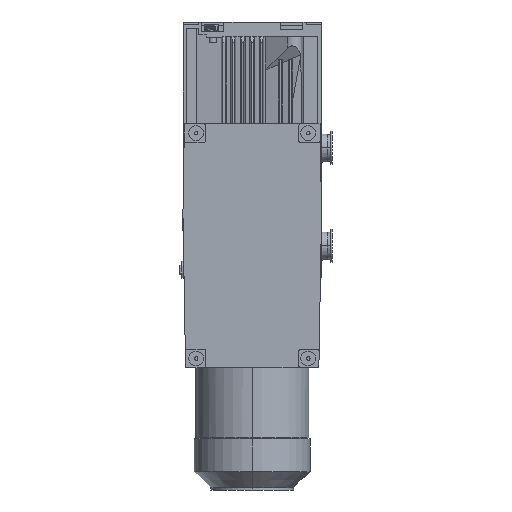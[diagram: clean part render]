
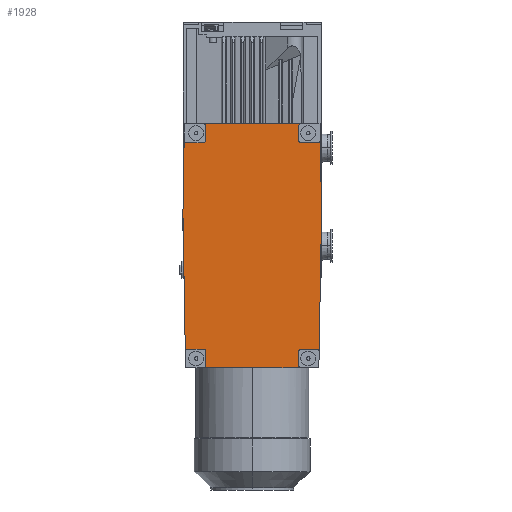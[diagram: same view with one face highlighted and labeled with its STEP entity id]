
A CAD part, front view. The second image highlights one B-rep face of the part: STEP entity #1928.
In plain terms, the highlighted planar face has unit normal (0, -1, 0) as drawn and (0, 0, -1) by its records, which use the part's own axes.
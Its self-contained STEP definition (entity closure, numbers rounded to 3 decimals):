
#89=DIRECTION('',(1.,0.,0.));
#90=VECTOR('',#89,24.);
#91=CARTESIAN_POINT('',(-203.,-78.996,0.));
#92=LINE('',#91,#90);
#93=CARTESIAN_POINT('',(-179.,-82.996,0.));
#94=DIRECTION('',(0.,0.,-1.));
#95=DIRECTION('',(0.,1.,0.));
#96=AXIS2_PLACEMENT_3D('',#93,#94,#95);
#98=DIRECTION('',(0.,-1.,0.));
#99=VECTOR('',#98,28.464);
#100=CARTESIAN_POINT('',(-175.,-82.996,0.));
#101=LINE('',#100,#99);
#102=CARTESIAN_POINT('',(-179.,-111.46,0.));
#103=DIRECTION('',(0.,0.,-1.));
#104=DIRECTION('',(1.,0.,0.));
#105=AXIS2_PLACEMENT_3D('',#102,#103,#104);
#107=DIRECTION('',(1.,-0.016,0.));
#108=VECTOR('',#107,124.083);
#109=CARTESIAN_POINT('',(-179.066,-115.459,0.));
#110=LINE('',#109,#108);
#111=DIRECTION('',(1.,0.017,0.));
#112=VECTOR('',#111,234.103);
#113=CARTESIAN_POINT('',(-55.,-117.5,0.));
#114=LINE('',#113,#112);
#115=CARTESIAN_POINT('',(179.,-109.48,0.));
#116=DIRECTION('',(0.,0.,-1.));
#117=DIRECTION('',(0.017,-1.,0.));
#118=AXIS2_PLACEMENT_3D('',#115,#116,#117);
#120=DIRECTION('',(0.,1.,0.));
#121=VECTOR('',#120,26.48);
#122=CARTESIAN_POINT('',(175.,-109.48,0.));
#123=LINE('',#122,#121);
#124=CARTESIAN_POINT('',(179.,-83.,0.));
#125=DIRECTION('',(0.,0.,-1.));
#126=DIRECTION('',(-1.,0.,0.));
#127=AXIS2_PLACEMENT_3D('',#124,#125,#126);
#129=DIRECTION('',(-1.,0.,0.));
#130=VECTOR('',#129,24.);
#131=CARTESIAN_POINT('',(203.,-79.,0.));
#132=LINE('',#131,#130);
#133=CARTESIAN_POINT('',(203.,-83.,0.));
#134=DIRECTION('',(0.,0.,-1.));
#135=DIRECTION('',(0.,1.,0.));
#136=AXIS2_PLACEMENT_3D('',#133,#134,#135);
#138=DIRECTION('',(0.,1.,0.));
#139=VECTOR('',#138,165.99);
#140=CARTESIAN_POINT('',(207.,-83.,0.));
#141=LINE('',#140,#139);
#142=CARTESIAN_POINT('',(207.,82.971,0.));
#143=CARTESIAN_POINT('',(207.,82.547,0.));
#144=CARTESIAN_POINT('',(206.863,81.742,0.));
#145=CARTESIAN_POINT('',(206.284,80.601,0.));
#146=CARTESIAN_POINT('',(205.387,79.708,0.));
#147=CARTESIAN_POINT('',(204.248,79.132,0.));
#148=CARTESIAN_POINT('',(203.431,79.,0.));
#149=CARTESIAN_POINT('',(203.,79.,0.));
#151=DIRECTION('',(-1.,0.,0.));
#152=VECTOR('',#151,24.);
#153=CARTESIAN_POINT('',(203.,79.,0.));
#154=LINE('',#153,#152);
#155=CARTESIAN_POINT('',(179.,83.,0.));
#156=DIRECTION('',(0.,0.,-1.));
#157=DIRECTION('',(0.,-1.,0.));
#158=AXIS2_PLACEMENT_3D('',#155,#156,#157);
#160=DIRECTION('',(0.,1.,0.));
#161=VECTOR('',#160,26.48);
#162=CARTESIAN_POINT('',(175.,83.,0.));
#163=LINE('',#162,#161);
#164=CARTESIAN_POINT('',(179.,109.48,0.));
#165=DIRECTION('',(0.,0.,-1.));
#166=DIRECTION('',(-1.,0.,0.));
#167=AXIS2_PLACEMENT_3D('',#164,#165,#166);
#169=DIRECTION('',(-1.,0.017,0.));
#170=VECTOR('',#169,234.103);
#171=CARTESIAN_POINT('',(179.069,113.48,0.));
#172=LINE('',#171,#170);
#173=DIRECTION('',(-1.,-0.016,0.));
#174=VECTOR('',#173,124.083);
#175=CARTESIAN_POINT('',(-55.,117.5,0.));
#176=LINE('',#175,#174);
#177=CARTESIAN_POINT('',(-179.,111.46,0.));
#178=DIRECTION('',(0.,0.,-1.));
#179=DIRECTION('',(-0.016,1.,0.));
#180=AXIS2_PLACEMENT_3D('',#177,#178,#179);
#182=DIRECTION('',(0.,-1.,0.));
#183=VECTOR('',#182,28.456);
#184=CARTESIAN_POINT('',(-175.,111.46,0.));
#185=LINE('',#184,#183);
#186=CARTESIAN_POINT('',(-179.,83.004,0.));
#187=DIRECTION('',(0.,0.,-1.));
#188=DIRECTION('',(1.,0.,0.));
#189=AXIS2_PLACEMENT_3D('',#186,#187,#188);
#191=DIRECTION('',(1.,0.,0.));
#192=VECTOR('',#191,24.);
#193=CARTESIAN_POINT('',(-203.,79.004,0.));
#194=LINE('',#193,#192);
#195=CARTESIAN_POINT('',(-203.,79.004,0.));
#196=CARTESIAN_POINT('',(-203.431,79.004,0.));
#197=CARTESIAN_POINT('',(-204.247,79.135,0.));
#198=CARTESIAN_POINT('',(-205.386,79.711,0.));
#199=CARTESIAN_POINT('',(-206.283,80.603,0.));
#200=CARTESIAN_POINT('',(-206.862,81.745,0.));
#201=CARTESIAN_POINT('',(-207.,82.547,0.));
#202=CARTESIAN_POINT('',(-207.,82.969,0.));
#204=DIRECTION('',(0.,-1.,0.));
#205=VECTOR('',#204,165.974);
#206=CARTESIAN_POINT('',(-207.,82.992,0.));
#207=LINE('',#206,#205);
#208=CARTESIAN_POINT('',(-207.,-82.953,0.));
#209=CARTESIAN_POINT('',(-207.,-82.534,0.));
#210=CARTESIAN_POINT('',(-206.861,-81.735,0.));
#211=CARTESIAN_POINT('',(-206.282,-80.593,0.));
#212=CARTESIAN_POINT('',(-205.385,-79.703,0.));
#213=CARTESIAN_POINT('',(-204.247,-79.128,0.));
#214=CARTESIAN_POINT('',(-203.431,-78.996,0.));
#215=CARTESIAN_POINT('',(-203.,-78.996,0.));
#1469=CARTESIAN_POINT('',(-55.,117.5,0.));
#1470=VERTEX_POINT('',#1469);
#1471=CARTESIAN_POINT('',(-55.,-117.5,0.));
#1472=VERTEX_POINT('',#1471);
#1529=CARTESIAN_POINT('',(-203.,-78.996,0.));
#1530=CARTESIAN_POINT('',(-179.,-78.996,0.));
#1531=VERTEX_POINT('',#1529);
#1532=VERTEX_POINT('',#1530);
#1533=CARTESIAN_POINT('',(-175.,-82.996,0.));
#1534=CARTESIAN_POINT('',(-175.,-111.46,0.));
#1535=VERTEX_POINT('',#1533);
#1536=VERTEX_POINT('',#1534);
#1537=CARTESIAN_POINT('',(-175.,111.46,0.));
#1538=CARTESIAN_POINT('',(-175.,83.004,0.));
#1539=VERTEX_POINT('',#1537);
#1540=VERTEX_POINT('',#1538);
#1541=CARTESIAN_POINT('',(-203.,79.004,0.));
#1542=CARTESIAN_POINT('',(-179.,79.004,0.));
#1543=VERTEX_POINT('',#1541);
#1544=VERTEX_POINT('',#1542);
#1545=CARTESIAN_POINT('',(175.,-109.48,0.));
#1546=CARTESIAN_POINT('',(175.,-83.,0.));
#1547=VERTEX_POINT('',#1545);
#1548=VERTEX_POINT('',#1546);
#1549=CARTESIAN_POINT('',(203.,-79.,0.));
#1550=CARTESIAN_POINT('',(179.,-79.,0.));
#1551=VERTEX_POINT('',#1549);
#1552=VERTEX_POINT('',#1550);
#1553=CARTESIAN_POINT('',(203.,79.,0.));
#1554=CARTESIAN_POINT('',(179.,79.,0.));
#1555=VERTEX_POINT('',#1553);
#1556=VERTEX_POINT('',#1554);
#1557=CARTESIAN_POINT('',(175.,83.,0.));
#1558=CARTESIAN_POINT('',(175.,109.48,0.));
#1559=VERTEX_POINT('',#1557);
#1560=VERTEX_POINT('',#1558);
#1561=CARTESIAN_POINT('',(207.,-83.,0.));
#1562=CARTESIAN_POINT('',(207.,82.99,0.));
#1563=VERTEX_POINT('',#1561);
#1564=VERTEX_POINT('',#1562);
#1565=CARTESIAN_POINT('',(179.069,113.48,0.));
#1566=VERTEX_POINT('',#1565);
#1567=CARTESIAN_POINT('',(-179.066,115.459,0.));
#1568=VERTEX_POINT('',#1567);
#1569=CARTESIAN_POINT('',(-207.,82.992,0.));
#1570=CARTESIAN_POINT('',(-207.,-82.982,0.));
#1571=VERTEX_POINT('',#1569);
#1572=VERTEX_POINT('',#1570);
#1573=CARTESIAN_POINT('',(-179.066,-115.459,0.));
#1574=VERTEX_POINT('',#1573);
#1575=CARTESIAN_POINT('',(179.069,-113.48,0.));
#1576=VERTEX_POINT('',#1575);
#1869=CARTESIAN_POINT('',(0.,0.,0.));
#1870=DIRECTION('',(0.,0.,1.));
#1871=DIRECTION('',(1.,0.,0.));
#1872=AXIS2_PLACEMENT_3D('',#1869,#1870,#1871);
#1873=PLANE('',#1872);
#1875=ORIENTED_EDGE('',*,*,#1874,.T.);
#1877=ORIENTED_EDGE('',*,*,#1876,.T.);
#1879=ORIENTED_EDGE('',*,*,#1878,.T.);
#1881=ORIENTED_EDGE('',*,*,#1880,.T.);
#1883=ORIENTED_EDGE('',*,*,#1882,.T.);
#1885=ORIENTED_EDGE('',*,*,#1884,.T.);
#1887=ORIENTED_EDGE('',*,*,#1886,.T.);
#1889=ORIENTED_EDGE('',*,*,#1888,.T.);
#1891=ORIENTED_EDGE('',*,*,#1890,.T.);
#1893=ORIENTED_EDGE('',*,*,#1892,.F.);
#1895=ORIENTED_EDGE('',*,*,#1894,.T.);
#1897=ORIENTED_EDGE('',*,*,#1896,.T.);
#1899=ORIENTED_EDGE('',*,*,#1898,.T.);
#1901=ORIENTED_EDGE('',*,*,#1900,.T.);
#1903=ORIENTED_EDGE('',*,*,#1902,.T.);
#1905=ORIENTED_EDGE('',*,*,#1904,.T.);
#1907=ORIENTED_EDGE('',*,*,#1906,.T.);
#1909=ORIENTED_EDGE('',*,*,#1908,.T.);
#1911=ORIENTED_EDGE('',*,*,#1910,.T.);
#1913=ORIENTED_EDGE('',*,*,#1912,.T.);
#1915=ORIENTED_EDGE('',*,*,#1914,.T.);
#1917=ORIENTED_EDGE('',*,*,#1916,.T.);
#1919=ORIENTED_EDGE('',*,*,#1918,.F.);
#1921=ORIENTED_EDGE('',*,*,#1920,.T.);
#1923=ORIENTED_EDGE('',*,*,#1922,.T.);
#1925=ORIENTED_EDGE('',*,*,#1924,.T.);
#1926=EDGE_LOOP('',(#1875,#1877,#1879,#1881,#1883,#1885,#1887,#1889,#1891,#1893,
#1895,#1897,#1899,#1901,#1903,#1905,#1907,#1909,#1911,#1913,#1915,#1917,#1919,
#1921,#1923,#1925));
#1927=FACE_OUTER_BOUND('',#1926,.F.);
#97=CIRCLE('',#96,4.);
#106=CIRCLE('',#105,4.);
#119=CIRCLE('',#118,4.);
#128=CIRCLE('',#127,4.);
#137=CIRCLE('',#136,4.);
#150=B_SPLINE_CURVE_WITH_KNOTS('',3,(#142,#143,#144,#145,#146,#147,#148,#149),
.UNSPECIFIED.,.F.,.F.,(4,1,1,1,1,4),(0.,0.2,0.4,0.6,0.8,1.),
.UNSPECIFIED.);
#159=CIRCLE('',#158,4.);
#168=CIRCLE('',#167,4.);
#181=CIRCLE('',#180,4.);
#190=CIRCLE('',#189,4.);
#203=B_SPLINE_CURVE_WITH_KNOTS('',3,(#195,#196,#197,#198,#199,#200,#201,#202),
.UNSPECIFIED.,.F.,.F.,(4,1,1,1,1,4),(0.,0.2,0.4,0.6,0.8,1.),
.UNSPECIFIED.);
#216=B_SPLINE_CURVE_WITH_KNOTS('',3,(#208,#209,#210,#211,#212,#213,#214,#215),
.UNSPECIFIED.,.F.,.F.,(4,1,1,1,1,4),(0.,0.2,0.4,0.6,0.8,1.),
.UNSPECIFIED.);
#1874=EDGE_CURVE('',#1531,#1532,#92,.T.);
#1876=EDGE_CURVE('',#1532,#1535,#97,.T.);
#1878=EDGE_CURVE('',#1535,#1536,#101,.T.);
#1880=EDGE_CURVE('',#1536,#1574,#106,.T.);
#1882=EDGE_CURVE('',#1574,#1472,#110,.T.);
#1884=EDGE_CURVE('',#1472,#1576,#114,.T.);
#1886=EDGE_CURVE('',#1576,#1547,#119,.T.);
#1888=EDGE_CURVE('',#1547,#1548,#123,.T.);
#1890=EDGE_CURVE('',#1548,#1552,#128,.T.);
#1892=EDGE_CURVE('',#1551,#1552,#132,.T.);
#1894=EDGE_CURVE('',#1551,#1563,#137,.T.);
#1896=EDGE_CURVE('',#1563,#1564,#141,.T.);
#1898=EDGE_CURVE('',#1564,#1555,#150,.T.);
#1900=EDGE_CURVE('',#1555,#1556,#154,.T.);
#1902=EDGE_CURVE('',#1556,#1559,#159,.T.);
#1904=EDGE_CURVE('',#1559,#1560,#163,.T.);
#1906=EDGE_CURVE('',#1560,#1566,#168,.T.);
#1908=EDGE_CURVE('',#1566,#1470,#172,.T.);
#1910=EDGE_CURVE('',#1470,#1568,#176,.T.);
#1912=EDGE_CURVE('',#1568,#1539,#181,.T.);
#1914=EDGE_CURVE('',#1539,#1540,#185,.T.);
#1916=EDGE_CURVE('',#1540,#1544,#190,.T.);
#1918=EDGE_CURVE('',#1543,#1544,#194,.T.);
#1920=EDGE_CURVE('',#1543,#1571,#203,.T.);
#1922=EDGE_CURVE('',#1571,#1572,#207,.T.);
#1924=EDGE_CURVE('',#1572,#1531,#216,.T.);
#1928=ADVANCED_FACE('',(#1927),#1873,.F.);
